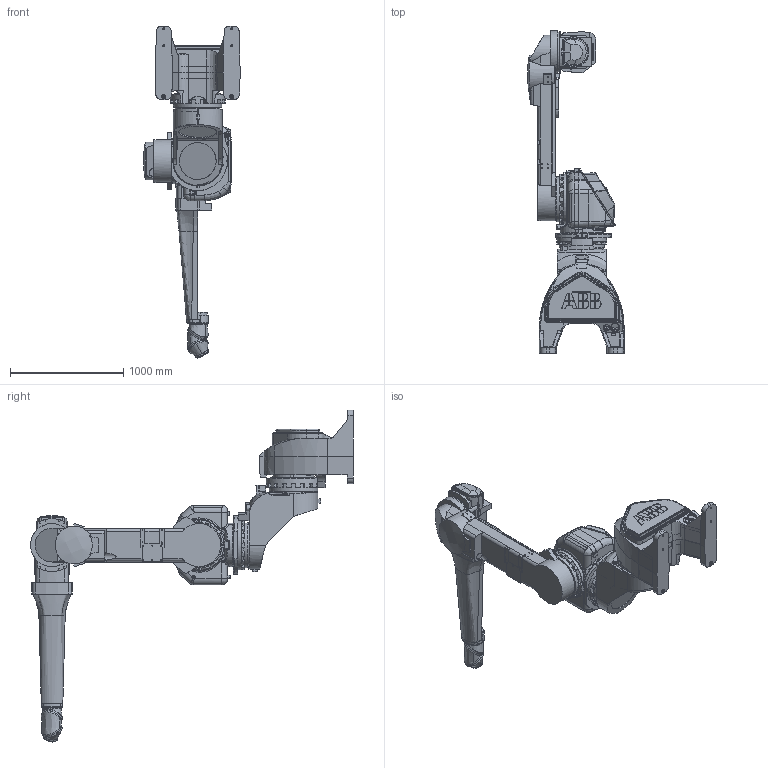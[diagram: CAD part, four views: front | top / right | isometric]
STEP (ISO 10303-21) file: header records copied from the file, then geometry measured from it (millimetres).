
FILE_DESCRIPTION (( 'STEP AP214' ), '1' );
FILE_NAME ('IRB5500-27_rev00.STEP', '2018-10-11T10:26:19', ( '' ), ( '' ), 'SwSTEP 2.0', 'SolidWorks 2016', '' );
FILE_SCHEMA (( 'AUTOMOTIVE_DESIGN' ));
Length unit declared in the file: millimetre
Products named in the file (10): IRB5500-27_rev00_LINK6_CAD; IRB5500-27_rev00_LINK5B_CAD; IRB5500-27_rev00_LINK5_CAD; IRB5500-27_rev00_LINK4_CAD; IRB5500-27_rev00_LINK3_CAD; IRB5500-27_rev00_LINK2_CAD; IRB5500-27_rev00_LINK1_CAD; IRB5500-27_rev00_AXIS7_ELBOW_CAD; IRB5500-27_rev00_AXIS7_FOOT_CAD; IRB5500-27_rev00
Assembly tree (9 placements, depth 2):
  IRB5500-27_rev00
    IRB5500-27_rev00_AXIS7_FOOT_CAD
    IRB5500-27_rev00_AXIS7_ELBOW_CAD
    IRB5500-27_rev00_LINK1_CAD
    IRB5500-27_rev00_LINK2_CAD
    IRB5500-27_rev00_LINK3_CAD
    IRB5500-27_rev00_LINK4_CAD
    IRB5500-27_rev00_LINK5_CAD
    IRB5500-27_rev00_LINK5B_CAD
    IRB5500-27_rev00_LINK6_CAD
Bounding box: 851.38 x 2853.5 x 2933.73 mm (x, y, z)
Volume: 537909559.4 mm3; surface area: 14293086.2 mm2
Topology: 10 solids, 18 shells, 2696 faces, 6583 edges, 4109 vertices
Faces by surface type: plane 1235, cylinder 708, bspline 365, cone 189, torus 173, sphere 26
Full cylindrical faces by diameter (mm): 4 x2, 5 x10, 6 x41, 6.5 x12, 8 x34, 8.5 x16, 10 x1, 10.2 x6, 11 x10, 12 x3, 14 x2, 16 x8, 16.5 x12, 17 x6, 19 x1, 20 x1, 27 x1, 30 x7, 35 x2, 56 x2, 61.3 x1, 68 x1, 78.1 x1, 83.5 x1, 93 x1, 95 x1, 116 x1, 161 x1, 167 x1, 175 x1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
Entity records: 136518 total; most frequent: CARTESIAN_POINT 62263, ORIENTED_EDGE 12448, DIRECTION 11332, EDGE_CURVE 6224, AXIS2_PLACEMENT_3D 4251, VERTEX_POINT 4057, EDGE_LOOP 3251, FACE_OUTER_BOUND 2926
